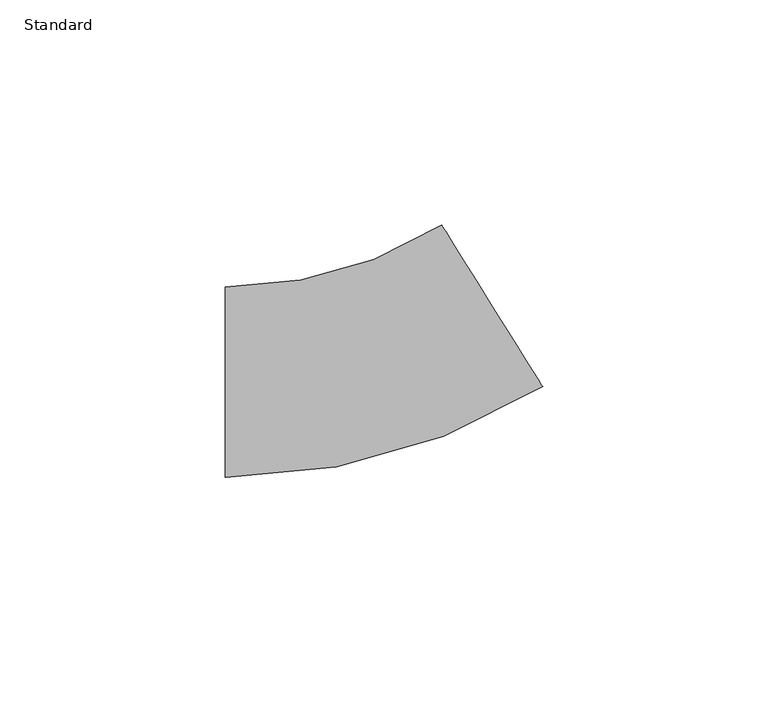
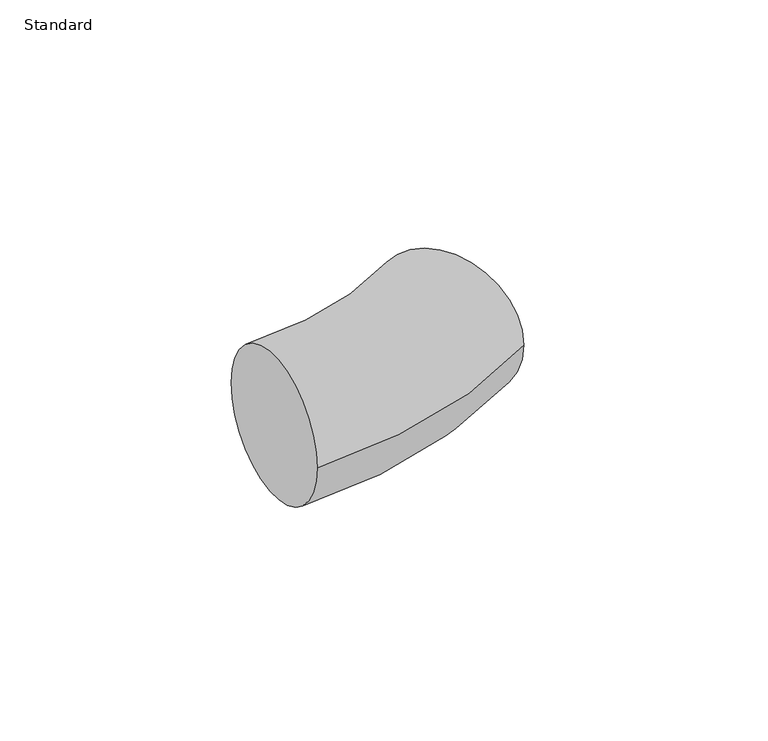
"""IFC4 building model written with IfcOpenShell, lengths in millimetres: pipe fitting geometry, Coude - Générique1 : Standard."""

from ifc_helpers import new_model, si_unit, point, frame, origin, place, context, project, spatial, circle_curve, ellipse_curve, trimmed, source, transform, mapped, element, save
from ifc_brep_helpers import plane_surface, revolved_surface, advanced_brep


def standard_b03442fd(model_context):
    return source(origin(), model_context, "Body", "AdvancedBrep", [
        advanced_brep(
        [(-32.0, -21.1, 0.0), (-32.0, 21.1, 0.0), (38.3188231, -0.9369087, 0.0), (15.9567067, 34.8510188, 0.0)],
        [
            (0, 1, circle_curve(frame((-32.0, 0.0, 0.0), z_axis=(-1.0, 0.0, 0.0), x_axis=(0.0, 1.0, 0.0)), 21.1)),
            (1, 0, circle_curve(frame((-32.0, 0.0, 0.0), z_axis=(-1.0, 0.0, 0.0), x_axis=(0.0, 1.0, 0.0)), 21.1)),
            (2, 3, circle_curve(frame((27.1377649, 16.957055, 0.0), z_axis=(0.8480551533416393, 0.5299079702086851, 0.0), x_axis=(-0.5299079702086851, 0.8480551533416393, 0.0)), 21.1)),
            (3, 2, circle_curve(frame((27.1377649, 16.957055, 0.0), z_axis=(0.8480551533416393, 0.5299079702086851, 0.0), x_axis=(-0.5299079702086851, 0.8480551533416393, 0.0)), 21.1)),
            (3, 1, circle_curve(frame((-32.0, 111.6000669, 0.0), z_axis=(0.0, 0.0, -1.0), x_axis=(0.0, -1.0, 0.0)), 90.5000669)),
            (0, 2, circle_curve(frame((-32.0, 111.6000669, 0.0), z_axis=(0.0, 0.0, 1.0), x_axis=(0.0, -1.0, 0.0)), 132.7000669)),
        ],
        [
            plane_surface(frame((-32.0, 0.0, 0.0), z_axis=(-1.0, 0.0, 0.0), x_axis=(0.0, 0.0, 1.0))),
            plane_surface(frame((27.1377649, 16.957055, 0.0), z_axis=(0.8480551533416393, 0.5299079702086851, 0.0), x_axis=(0.0, 0.0, 1.0))),
            revolved_surface(trimmed(ellipse_curve(frame((-32.0, 0.0, 0.0), z_axis=(-1.0, 0.0, 0.0), x_axis=(0.0, 1.0, 0.0)), 21.1, 21.1), [point((-32.0, -21.1, 0.0))], [point((-32.0, 21.1, 0.0))], True, "CARTESIAN"), (-32.0, 111.6000669, 0.0), (0.0, 0.0, 1.0)),
            revolved_surface(trimmed(ellipse_curve(frame((-32.0, 0.0, 0.0), z_axis=(-1.0, 0.0, 0.0), x_axis=(0.0, 1.0, 0.0)), 21.1, 21.1), [point((-32.0, 21.1, 0.0))], [point((-32.0, -21.1, 0.0))], True, "CARTESIAN"), (-32.0, 111.6000669, 0.0), (0.0, 0.0, 1.0)),
        ],
        [
            (0, [[1, 2]]),
            (1, [[3, 4]]),
            (2, [[5, -1, 6, -4]]),
            (3, [[-6, -2, -5, -3]]),
        ],
    ),
    ])


if __name__ == "__main__":
    model = new_model("IFC4")
    model_context = context("Model", 3, world=origin())
    ifc_project = project(units=[si_unit("LENGTHUNIT", "METRE", prefix="MILLI")], contexts=[model_context])
    site = spatial("IfcSite", under=ifc_project)
    building = spatial("IfcBuilding", under=site)
    placement = place(None, origin())
    standard_shape = standard_b03442fd(model_context)
    element("IfcPipeFitting", 1, ObjectType="Coude - Générique1 : Standard", at=placement, inside=building, context=model_context, shape_type="MappedRepresentation", body=[
        mapped(standard_shape, transform((0.0, 0.0, 0.0), x_axis=(1.0, 0.0, 0.0), y_axis=(0.0, 1.0, 0.0), z_axis=(0.0, 0.0, 1.0))),
    ])
    save(model, "model.ifc")
